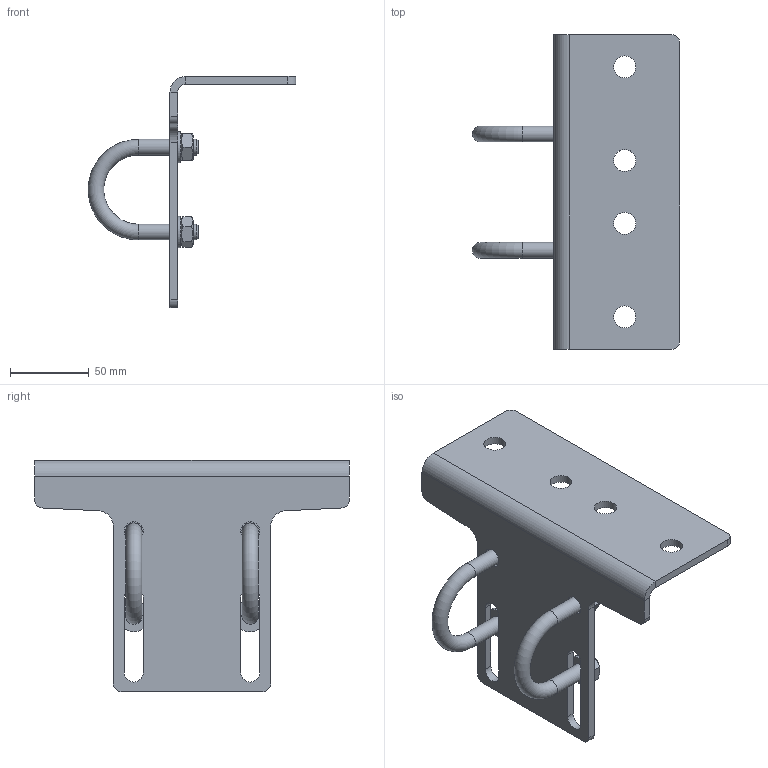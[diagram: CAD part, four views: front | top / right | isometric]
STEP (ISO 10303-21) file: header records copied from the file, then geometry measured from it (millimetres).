
FILE_DESCRIPTION(/* description */ (''),/* implementation_level */ '2;1');
FILE_NAME(/* name */ 'D:\VDV Techniek\Documents\Inventor\_ISP_Products\UDG on Round Tube Kit\Round tube kit original\STP\Round tube 42mm-out-Mounting bracket.stp',/* time_stamp */ '2022-12-29T15:04:32+01:00',/* author */ ('jos'),/* organization */ (''),/* preprocessor_version */ 'ST-DEVELOPER v15.2',/* originating_system */ 'Autodesk Inventor 2014',/* authorisation */ '');
FILE_SCHEMA (('AUTOMOTIVE_DESIGN { 1 0 10303 214 3 1 1 }'));
Length unit declared in the file: millimetre
Products named in the file (5): UDG_Mounting_Bracket_universal_HDG; Krambeugel 42mm; DIN 125 - A 10,5; DIN 934 - M10 x 1,5; Round tube 42mm-out-Mounting bracket
Assembly tree (11 placements, depth 2):
  Round tube 42mm-out-Mounting bracket
    UDG_Mounting_Bracket_universal_HDG
    Krambeugel 42mm  x2
    DIN 125 - A 10,5  x4
    DIN 934 - M10 x 1,5  x4
Bounding box: 131.9 x 200 x 147 mm (x, y, z)
Volume: 182840.4 mm3; surface area: 83464.4 mm2
Topology: 11 solids, 11 shells, 122 faces, 272 edges, 172 vertices
Faces by surface type: plane 64, cylinder 36, cone 20, torus 2
Full cylindrical faces by diameter (mm): 8.376 x4, 10 x4, 10.5 x4, 12 x2, 14 x4, 20 x4
Entity records: 1959 total; most frequent: DIRECTION 338, CARTESIAN_POINT 334, ORIENTED_EDGE 268, AXIS2_PLACEMENT_3D 136, EDGE_CURVE 134, EDGE_LOOP 102, VERTEX_POINT 96, LINE 66
